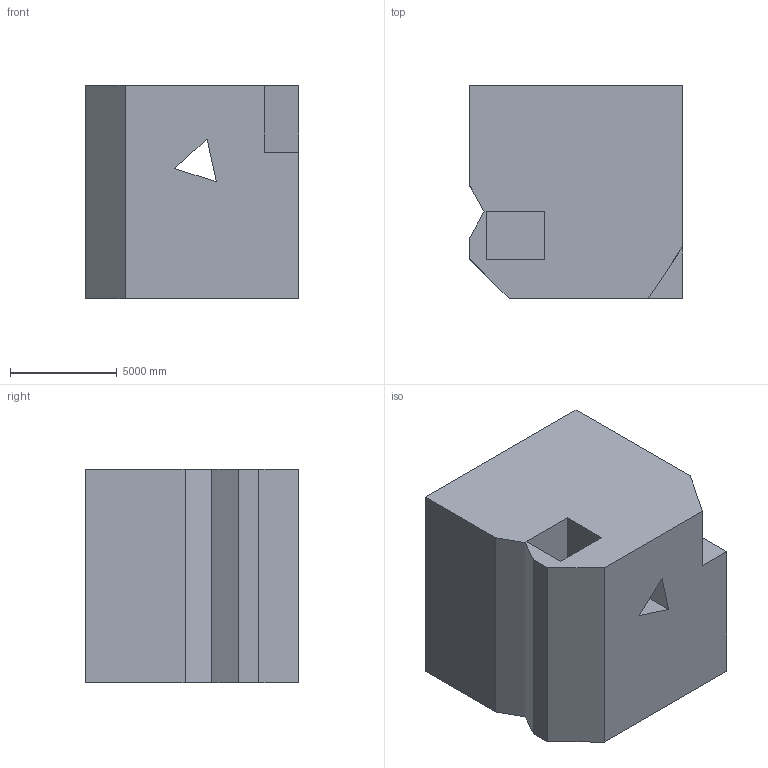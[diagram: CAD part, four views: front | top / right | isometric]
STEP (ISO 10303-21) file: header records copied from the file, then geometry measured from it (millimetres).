
FILE_DESCRIPTION (( 'STEP AP203' ), '1' );
FILE_NAME ('597.STEP', '2022-07-29T12:00:34', ( 'user' ), ( '' ), 'SwSTEP 2.0', 'SolidWorks 2021', '' );
FILE_SCHEMA (( 'CONFIG_CONTROL_DESIGN' ));
Length unit declared in the file: centimetre
Products named in the file (1): 597
Bounding box: 10000 x 10000 x 10000 mm (x, y, z)
Volume: 905166637598 mm3; surface area: 722009229.8 mm2
Topology: 1 solids, 1 shells, 23 faces, 57 edges, 38 vertices
Faces by surface type: plane 21, cylinder 2
Entity records: 756 total; most frequent: CARTESIAN_POINT 119, ORIENTED_EDGE 114, DIRECTION 109, EDGE_CURVE 57, LINE 53, VECTOR 53, VERTEX_POINT 38, AXIS2_PLACEMENT_3D 28
